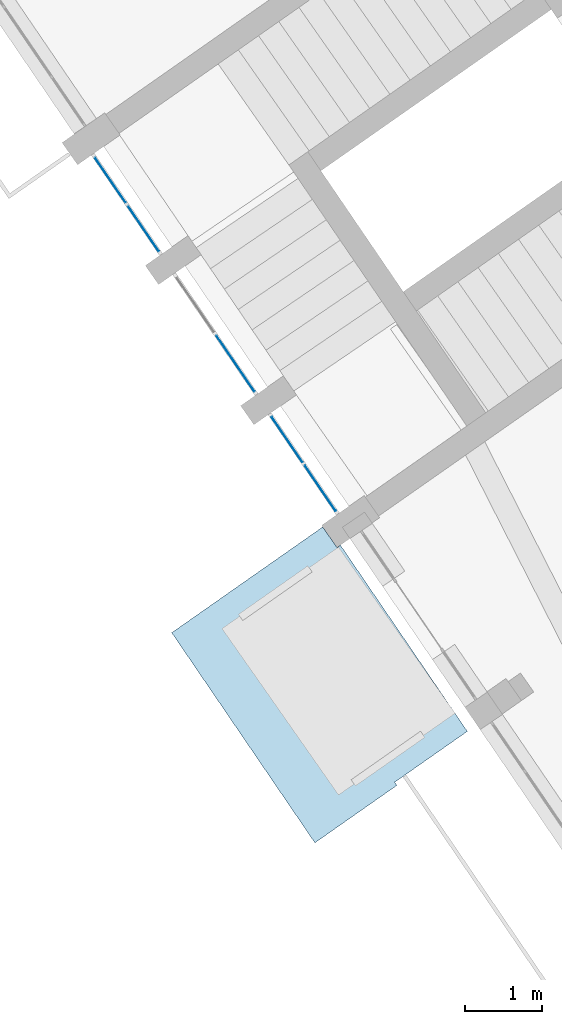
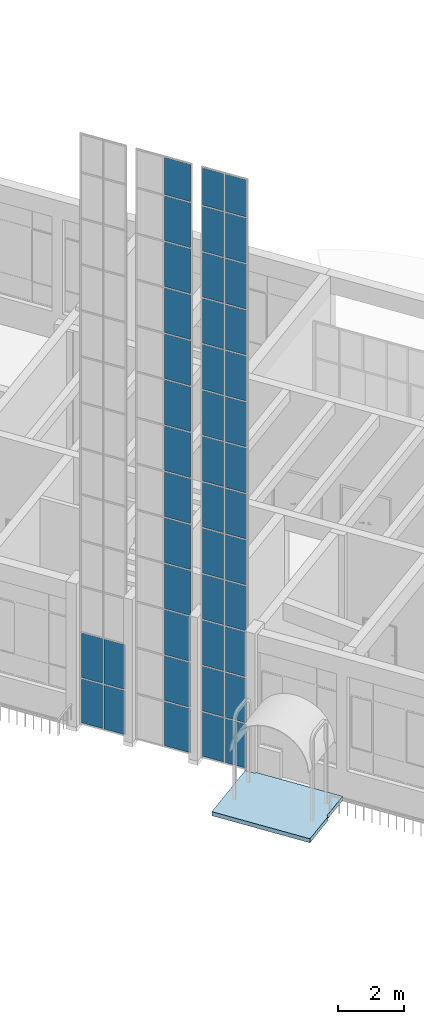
# One storey, part 43 of 157: 43 plates, 1 slab, 3 elements without a shape of their own.
"""IFC2X3 building model written with IfcOpenShell, lengths in millimetres."""

from ifc_helpers import new_model, entity, si_unit, converted_unit, derived_unit, direction, frame, frame_2d, origin, place, context, subcontext, project, spatial, polyline, rectangle, outline, extrude, source, transform, mapped, material, layer, layer_set, layer_usage, type_object, type_shapes, element, aggregate, save


model = new_model("IFC2X3")

# Units and contexts
model_context = context("Model", 3, precision=0.01, world=origin(), true_north=direction((6.123031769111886e-17, 1.0)))
body_context = subcontext(model_context, "Body", "Model", "MODEL_VIEW")
ifc_project = project(units=[si_unit("LENGTHUNIT", "METRE", prefix="MILLI"), si_unit("AREAUNIT", "SQUARE_METRE"), si_unit("VOLUMEUNIT", "CUBIC_METRE"), converted_unit("PLANEANGLEUNIT", "DEGREE", entity("IfcRatioMeasure", 0.017453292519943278), si_unit("PLANEANGLEUNIT", "RADIAN"), dimensions=[0, 0, 0, 0, 0, 0, 0]), si_unit("MASSUNIT", "GRAM", prefix="KILO"), derived_unit("MASSDENSITYUNIT", [(si_unit("MASSUNIT", "GRAM", prefix="KILO"), 1), (si_unit("LENGTHUNIT", "METRE"), -3)]), derived_unit("MOMENTOFINERTIAUNIT", [(si_unit("LENGTHUNIT", "METRE"), 4)]), si_unit("TIMEUNIT", "SECOND"), si_unit("FREQUENCYUNIT", "HERTZ"), si_unit("THERMODYNAMICTEMPERATUREUNIT", "DEGREE_CELSIUS"), derived_unit("THERMALTRANSMITTANCEUNIT", [(si_unit("MASSUNIT", "GRAM", prefix="KILO"), 1), (si_unit("THERMODYNAMICTEMPERATUREUNIT", "KELVIN"), -1), (si_unit("TIMEUNIT", "SECOND"), -3)]), derived_unit("THERMALCONDUCTANCEUNIT", [(si_unit("MASSUNIT", "GRAM", prefix="KILO"), 1), (si_unit("LENGTHUNIT", "METRE"), 1), (si_unit("THERMODYNAMICTEMPERATUREUNIT", "KELVIN"), -1), (si_unit("TIMEUNIT", "SECOND"), -3)]), derived_unit("VOLUMETRICFLOWRATEUNIT", [(si_unit("LENGTHUNIT", "METRE"), 3), (si_unit("TIMEUNIT", "SECOND"), -1)]), derived_unit("MASSFLOWRATEUNIT", [(si_unit("MASSUNIT", "GRAM", prefix="KILO"), 1), (si_unit("TIMEUNIT", "SECOND"), -1)]), derived_unit("ROTATIONALFREQUENCYUNIT", [(si_unit("TIMEUNIT", "SECOND"), -1)]), si_unit("ELECTRICCURRENTUNIT", "AMPERE"), si_unit("ELECTRICVOLTAGEUNIT", "VOLT"), si_unit("POWERUNIT", "WATT"), converted_unit("FORCEUNIT", "KIP", entity("IfcRatioMeasure", 2.088543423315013e-05), si_unit("FORCEUNIT", "NEWTON"), dimensions=[1, 1, -2, 0, 0, 0, 0]), si_unit("ILLUMINANCEUNIT", "LUX"), si_unit("LUMINOUSFLUXUNIT", "LUMEN"), si_unit("LUMINOUSINTENSITYUNIT", "CANDELA"), derived_unit("USERDEFINED", [(si_unit("MASSUNIT", "GRAM", prefix="KILO"), -1), (si_unit("LENGTHUNIT", "METRE"), -2), (si_unit("TIMEUNIT", "SECOND"), 3), (si_unit("LUMINOUSFLUXUNIT", "LUMEN"), 1)]), derived_unit("USERDEFINED", [(si_unit("MASSUNIT", "GRAM", prefix="KILO"), 1), (si_unit("LENGTHUNIT", "METRE"), 3), (si_unit("TIMEUNIT", "SECOND"), -3), (si_unit("ELECTRICCURRENTUNIT", "AMPERE"), -2)]), derived_unit("USERDEFINED", [(si_unit("LENGTHUNIT", "METRE"), 2), (si_unit("TIMEUNIT", "SECOND"), -2)]), derived_unit("SOUNDPOWERUNIT", [(si_unit("MASSUNIT", "GRAM", prefix="KILO"), 1), (si_unit("LENGTHUNIT", "METRE"), 2), (si_unit("TIMEUNIT", "SECOND"), -3)]), derived_unit("SOUNDPRESSUREUNIT", [(si_unit("MASSUNIT", "GRAM", prefix="KILO"), 1), (si_unit("LENGTHUNIT", "METRE"), -1), (si_unit("TIMEUNIT", "SECOND"), -2)]), derived_unit("LINEARVELOCITYUNIT", [(si_unit("LENGTHUNIT", "METRE"), 1), (si_unit("TIMEUNIT", "SECOND"), -1)]), si_unit("PRESSUREUNIT", "PASCAL"), derived_unit("USERDEFINED", [(si_unit("LENGTHUNIT", "METRE"), -2), (si_unit("MASSUNIT", "GRAM", prefix="KILO"), 1), (si_unit("TIMEUNIT", "SECOND"), -2)]), derived_unit("LINEARFORCEUNIT", [(si_unit("MASSUNIT", "GRAM", prefix="KILO"), 1), (si_unit("LENGTHUNIT", "METRE"), 1), (si_unit("TIMEUNIT", "SECOND"), -2), (si_unit("LENGTHUNIT", "METRE"), -1)]), derived_unit("PLANARFORCEUNIT", [(si_unit("MASSUNIT", "GRAM", prefix="KILO"), 1), (si_unit("LENGTHUNIT", "METRE"), 1), (si_unit("TIMEUNIT", "SECOND"), -2), (si_unit("LENGTHUNIT", "METRE"), -2)]), derived_unit("SPECIFICHEATCAPACITYUNIT", [(si_unit("LENGTHUNIT", "METRE"), 2), (si_unit("TIMEUNIT", "SECOND"), -2), (si_unit("THERMODYNAMICTEMPERATUREUNIT", "KELVIN"), -1)]), derived_unit("VAPORPERMEABILITYUNIT", [(si_unit("TIMEUNIT", "SECOND"), 1), (si_unit("LENGTHUNIT", "METRE"), -1)]), derived_unit("DYNAMICVISCOSITYUNIT", [(si_unit("MASSUNIT", "GRAM", prefix="KILO"), 1), (si_unit("LENGTHUNIT", "METRE"), -1), (si_unit("TIMEUNIT", "SECOND"), -1)]), derived_unit("THERMALEXPANSIONCOEFFICIENTUNIT", [(si_unit("THERMODYNAMICTEMPERATUREUNIT", "KELVIN"), -1)])], contexts=[model_context])

# Site, building, storey
site_placement = place(None, frame((0.0, 0.0, 0.0), z_axis=(0.0, 0.0, 1.0), x_axis=(0.8191520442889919, 0.5735764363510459, 0.0)))
site = spatial("IfcSite", under=ifc_project, at=site_placement, Name="Default", CompositionType="ELEMENT")
building_placement = place(site_placement, origin())
building = spatial("IfcBuilding", under=site, at=building_placement, CompositionType="ELEMENT")
storey_placement = place(building_placement, origin())
storey = spatial("IfcBuildingStorey", under=building, at=storey_placement, Name="1.EG +0.00", CompositionType="ELEMENT", Elevation=-4.331468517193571e-12)

# Slab
ifc_material_1 = material(Name="Analytical Floor Surface_CJC")
ifc_layer = layer(ifc_material_1, 150.0)
ifc_layer_set = layer_set([ifc_layer], Name="Floor:Boden_CJC")
ifc_layer_usage = layer_usage(ifc_layer_set, "AXIS3", "POSITIVE", 0.0)
slab_type = type_object("IfcSlabType", Name="Floor:Boden_CJC", PredefinedType="FLOOR", material=ifc_layer_set)
slab_placement = place(storey_placement, origin())
element("IfcSlab", 1, at=slab_placement, inside=storey, type_object=slab_type, material=ifc_layer_usage, Name="Floor:Boden_CJC", ObjectType="Floor:Boden_CJC", PredefinedType="FLOOR", context=body_context, shape_type="SweptSolid", body=[
    extrude(outline(polyline([(256.15321058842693, -1581.2499999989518), (1556.258550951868, -1581.2499999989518), (1514.2475077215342, 1718.7499999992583), (-878.2112033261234, 1718.749999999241), (-878.2112033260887, 1393.7499999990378), (-931.8135671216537, 1393.749999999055), (-894.5765060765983, -1531.2499999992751), (256.15321058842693, -1531.2499999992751), (256.15321058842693, -1581.2499999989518)])), frame((-224258.725467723, 108127.60891435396, 150.0), z_axis=(0.0, 0.0, -1.0), x_axis=(-1.0, 0.0, 0.0)), (0.0, 0.0, 1.0), 150.0),
])

# Curtain wall, plates
curtain_wall_type_1 = type_object("IfcCurtainWallType", Name="Curtain Wall:Curtain_Wall_CJC", PredefinedType="NOTDEFINED")
curtain_wall_1_placement = place(storey_placement, origin())
curtain_wall_1 = element("IfcCurtainWall", 2, at=curtain_wall_1_placement, inside=storey, type_object=curtain_wall_type_1, Name="Curtain Wall:Curtain_Wall_CJC", ObjectType="Curtain Wall:Curtain_Wall_CJC")
ifc_material_2 = material(Name="Glass")
plate_type_1 = type_object("IfcPlateType", Name="System Panel:Glazed_CJC", PredefinedType="CURTAIN_PANEL", material=ifc_material_2)
shared_shape_1 = source(origin(), body_context, "Body", "SweptSolid", [
    extrude(rectangle(XDim=10.0, YDim=712.0002822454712, at=frame_2d((0.0, -2.2453150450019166e-12), x_axis=(1.0, 0.0))), frame((0.0, 0.0, 0.0), z_axis=(0.0, 0.0, 1.0), x_axis=(0.0, 1.0, 0.0)), (0.0, 0.0, 1.0), 1624.9999999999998),
])
type_shapes(plate_type_1, [shared_shape_1])
plate_1_placement = place(curtain_wall_1_placement, frame((-223117.27986607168, 110277.32615952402, 50.0), z_axis=(0.0, 0.0, 1.0), x_axis=(0.01272958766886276, 0.999918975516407, 0.0)))
plate_1 = element("IfcPlate", 3, at=plate_1_placement, type_object=plate_type_1, material=ifc_material_2, Name="System Panel:Glazed_CJC", ObjectType="System Panel:Glazed_CJC", context=body_context, shape_type="MappedRepresentation", body=[
    mapped(shared_shape_1, transform((0.0, 0.0, 0.0), scale=1.0)),
])
plate_2_placement = place(curtain_wall_1_placement, frame((-223107.5799166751, 111039.26470109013, 50.0), z_axis=(0.0, 0.0, 1.0), x_axis=(0.01272958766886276, 0.999918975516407, 0.0)))
plate_2 = element("IfcPlate", 4, at=plate_2_placement, type_object=plate_type_1, material=ifc_material_2, Name="System Panel:Glazed_CJC", ObjectType="System Panel:Glazed_CJC", context=body_context, shape_type="MappedRepresentation", body=[
    mapped(shared_shape_1, transform((0.0, 0.0, 0.0), scale=1.0)),
])
plate_type_2 = type_object("IfcPlateType", Name="System Panel:Glazed_CJC", PredefinedType="CURTAIN_PANEL", material=ifc_material_2)
shared_shape_2 = source(origin(), body_context, "Body", "SweptSolid", [
    extrude(rectangle(XDim=10.0, YDim=712.0002822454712, at=frame_2d((0.0, -2.2453150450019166e-12), x_axis=(1.0, 0.0))), frame((0.0, 0.0, 0.0), z_axis=(0.0, 0.0, 1.0), x_axis=(0.0, 1.0, 0.0)), (0.0, 0.0, 1.0), 1650.0000000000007),
])
type_shapes(plate_type_2, [shared_shape_2])
plate_3_placement = place(curtain_wall_1_placement, frame((-223117.27986607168, 110277.32615952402, 1725.0), z_axis=(0.0, 0.0, 1.0), x_axis=(0.01272958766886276, 0.999918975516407, 0.0)))
plate_3 = element("IfcPlate", 5, at=plate_3_placement, type_object=plate_type_2, material=ifc_material_2, Name="System Panel:Glazed_CJC", ObjectType="System Panel:Glazed_CJC", context=body_context, shape_type="MappedRepresentation", body=[
    mapped(shared_shape_2, transform((0.0, 0.0, 0.0), scale=1.0)),
])
plate_4_placement = place(curtain_wall_1_placement, frame((-223107.5799166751, 111039.26470109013, 1725.0), z_axis=(0.0, 0.0, 1.0), x_axis=(0.01272958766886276, 0.999918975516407, 0.0)))
plate_4 = element("IfcPlate", 6, at=plate_4_placement, type_object=plate_type_2, material=ifc_material_2, Name="System Panel:Glazed_CJC", ObjectType="System Panel:Glazed_CJC", context=body_context, shape_type="MappedRepresentation", body=[
    mapped(shared_shape_2, transform((0.0, 0.0, 0.0), scale=1.0)),
])
plate_5_placement = place(curtain_wall_1_placement, frame((-223117.27986607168, 110277.32615952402, 3425.0), z_axis=(0.0, 0.0, 1.0), x_axis=(0.01272958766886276, 0.999918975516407, 0.0)))
plate_5 = element("IfcPlate", 7, at=plate_5_placement, type_object=plate_type_2, material=ifc_material_2, Name="System Panel:Glazed_CJC", ObjectType="System Panel:Glazed_CJC", context=body_context, shape_type="MappedRepresentation", body=[
    mapped(shared_shape_2, transform((0.0, 0.0, 0.0), scale=1.0)),
])
plate_6_placement = place(curtain_wall_1_placement, frame((-223107.5799166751, 111039.26470109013, 3425.0), z_axis=(0.0, 0.0, 1.0), x_axis=(0.01272958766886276, 0.999918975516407, 0.0)))
plate_6 = element("IfcPlate", 8, at=plate_6_placement, type_object=plate_type_2, material=ifc_material_2, Name="System Panel:Glazed_CJC", ObjectType="System Panel:Glazed_CJC", context=body_context, shape_type="MappedRepresentation", body=[
    mapped(shared_shape_2, transform((0.0, 0.0, 0.0), scale=1.0)),
])
plate_7_placement = place(curtain_wall_1_placement, frame((-223117.27986607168, 110277.32615952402, 5125.0), z_axis=(0.0, 0.0, 1.0), x_axis=(0.01272958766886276, 0.999918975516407, 0.0)))
plate_7 = element("IfcPlate", 9, at=plate_7_placement, type_object=plate_type_2, material=ifc_material_2, Name="System Panel:Glazed_CJC", ObjectType="System Panel:Glazed_CJC", context=body_context, shape_type="MappedRepresentation", body=[
    mapped(shared_shape_2, transform((0.0, 0.0, 0.0), scale=1.0)),
])
plate_8_placement = place(curtain_wall_1_placement, frame((-223107.5799166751, 111039.26470109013, 5125.0), z_axis=(0.0, 0.0, 1.0), x_axis=(0.01272958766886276, 0.999918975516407, 0.0)))
plate_8 = element("IfcPlate", 10, at=plate_8_placement, type_object=plate_type_2, material=ifc_material_2, Name="System Panel:Glazed_CJC", ObjectType="System Panel:Glazed_CJC", context=body_context, shape_type="MappedRepresentation", body=[
    mapped(shared_shape_2, transform((0.0, 0.0, 0.0), scale=1.0)),
])
plate_9_placement = place(curtain_wall_1_placement, frame((-223117.27986607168, 110277.32615952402, 6825.0), z_axis=(0.0, 0.0, 1.0), x_axis=(0.01272958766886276, 0.999918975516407, 0.0)))
plate_9 = element("IfcPlate", 11, at=plate_9_placement, type_object=plate_type_2, material=ifc_material_2, Name="System Panel:Glazed_CJC", ObjectType="System Panel:Glazed_CJC", context=body_context, shape_type="MappedRepresentation", body=[
    mapped(shared_shape_2, transform((0.0, 0.0, 0.0), scale=1.0)),
])
plate_10_placement = place(curtain_wall_1_placement, frame((-223107.5799166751, 111039.26470109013, 6825.0), z_axis=(0.0, 0.0, 1.0), x_axis=(0.01272958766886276, 0.999918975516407, 0.0)))
plate_10 = element("IfcPlate", 12, at=plate_10_placement, type_object=plate_type_2, material=ifc_material_2, Name="System Panel:Glazed_CJC", ObjectType="System Panel:Glazed_CJC", context=body_context, shape_type="MappedRepresentation", body=[
    mapped(shared_shape_2, transform((0.0, 0.0, 0.0), scale=1.0)),
])
plate_11_placement = place(curtain_wall_1_placement, frame((-223117.27986607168, 110277.32615952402, 8525.0), z_axis=(0.0, 0.0, 1.0), x_axis=(0.01272958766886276, 0.999918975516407, 0.0)))
plate_11 = element("IfcPlate", 13, at=plate_11_placement, type_object=plate_type_2, material=ifc_material_2, Name="System Panel:Glazed_CJC", ObjectType="System Panel:Glazed_CJC", context=body_context, shape_type="MappedRepresentation", body=[
    mapped(shared_shape_2, transform((0.0, 0.0, 0.0), scale=1.0)),
])
plate_12_placement = place(curtain_wall_1_placement, frame((-223107.5799166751, 111039.26470109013, 8525.0), z_axis=(0.0, 0.0, 1.0), x_axis=(0.01272958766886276, 0.999918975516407, 0.0)))
plate_12 = element("IfcPlate", 14, at=plate_12_placement, type_object=plate_type_2, material=ifc_material_2, Name="System Panel:Glazed_CJC", ObjectType="System Panel:Glazed_CJC", context=body_context, shape_type="MappedRepresentation", body=[
    mapped(shared_shape_2, transform((0.0, 0.0, 0.0), scale=1.0)),
])
plate_13_placement = place(curtain_wall_1_placement, frame((-223117.27986607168, 110277.32615952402, 10225.0), z_axis=(0.0, 0.0, 1.0), x_axis=(0.01272958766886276, 0.999918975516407, 0.0)))
plate_13 = element("IfcPlate", 15, at=plate_13_placement, type_object=plate_type_2, material=ifc_material_2, Name="System Panel:Glazed_CJC", ObjectType="System Panel:Glazed_CJC", context=body_context, shape_type="MappedRepresentation", body=[
    mapped(shared_shape_2, transform((0.0, 0.0, 0.0), scale=1.0)),
])
plate_14_placement = place(curtain_wall_1_placement, frame((-223107.5799166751, 111039.26470109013, 10225.0), z_axis=(0.0, 0.0, 1.0), x_axis=(0.01272958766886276, 0.999918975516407, 0.0)))
plate_14 = element("IfcPlate", 16, at=plate_14_placement, type_object=plate_type_2, material=ifc_material_2, Name="System Panel:Glazed_CJC", ObjectType="System Panel:Glazed_CJC", context=body_context, shape_type="MappedRepresentation", body=[
    mapped(shared_shape_2, transform((0.0, 0.0, 0.0), scale=1.0)),
])
plate_15_placement = place(curtain_wall_1_placement, frame((-223117.27986607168, 110277.32615952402, 11925.0), z_axis=(0.0, 0.0, 1.0), x_axis=(0.01272958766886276, 0.999918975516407, 0.0)))
plate_15 = element("IfcPlate", 17, at=plate_15_placement, type_object=plate_type_2, material=ifc_material_2, Name="System Panel:Glazed_CJC", ObjectType="System Panel:Glazed_CJC", context=body_context, shape_type="MappedRepresentation", body=[
    mapped(shared_shape_2, transform((0.0, 0.0, 0.0), scale=1.0)),
])
plate_16_placement = place(curtain_wall_1_placement, frame((-223107.5799166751, 111039.26470109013, 11925.0), z_axis=(0.0, 0.0, 1.0), x_axis=(0.01272958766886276, 0.999918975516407, 0.0)))
plate_16 = element("IfcPlate", 18, at=plate_16_placement, type_object=plate_type_2, material=ifc_material_2, Name="System Panel:Glazed_CJC", ObjectType="System Panel:Glazed_CJC", context=body_context, shape_type="MappedRepresentation", body=[
    mapped(shared_shape_2, transform((0.0, 0.0, 0.0), scale=1.0)),
])
plate_17_placement = place(curtain_wall_1_placement, frame((-223117.27986607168, 110277.32615952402, 13625.0), z_axis=(0.0, 0.0, 1.0), x_axis=(0.01272958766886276, 0.999918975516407, 0.0)))
plate_17 = element("IfcPlate", 19, at=plate_17_placement, type_object=plate_type_2, material=ifc_material_2, Name="System Panel:Glazed_CJC", ObjectType="System Panel:Glazed_CJC", context=body_context, shape_type="MappedRepresentation", body=[
    mapped(shared_shape_2, transform((0.0, 0.0, 0.0), scale=1.0)),
])
plate_18_placement = place(curtain_wall_1_placement, frame((-223107.5799166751, 111039.26470109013, 13625.0), z_axis=(0.0, 0.0, 1.0), x_axis=(0.01272958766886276, 0.999918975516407, 0.0)))
plate_18 = element("IfcPlate", 20, at=plate_18_placement, type_object=plate_type_2, material=ifc_material_2, Name="System Panel:Glazed_CJC", ObjectType="System Panel:Glazed_CJC", context=body_context, shape_type="MappedRepresentation", body=[
    mapped(shared_shape_2, transform((0.0, 0.0, 0.0), scale=1.0)),
])
plate_19_placement = place(curtain_wall_1_placement, frame((-223117.27986607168, 110277.32615952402, 15325.0), z_axis=(0.0, 0.0, 1.0), x_axis=(0.01272958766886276, 0.999918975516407, 0.0)))
plate_19 = element("IfcPlate", 21, at=plate_19_placement, type_object=plate_type_2, material=ifc_material_2, Name="System Panel:Glazed_CJC", ObjectType="System Panel:Glazed_CJC", context=body_context, shape_type="MappedRepresentation", body=[
    mapped(shared_shape_2, transform((0.0, 0.0, 0.0), scale=1.0)),
])
plate_20_placement = place(curtain_wall_1_placement, frame((-223107.5799166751, 111039.26470109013, 15325.0), z_axis=(0.0, 0.0, 1.0), x_axis=(0.01272958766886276, 0.999918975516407, 0.0)))
plate_20 = element("IfcPlate", 22, at=plate_20_placement, type_object=plate_type_2, material=ifc_material_2, Name="System Panel:Glazed_CJC", ObjectType="System Panel:Glazed_CJC", context=body_context, shape_type="MappedRepresentation", body=[
    mapped(shared_shape_2, transform((0.0, 0.0, 0.0), scale=1.0)),
])
plate_21_placement = place(curtain_wall_1_placement, frame((-223117.27986607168, 110277.32615952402, 17025.0), z_axis=(0.0, 0.0, 1.0), x_axis=(0.01272958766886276, 0.999918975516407, 0.0)))
plate_21 = element("IfcPlate", 23, at=plate_21_placement, type_object=plate_type_2, material=ifc_material_2, Name="System Panel:Glazed_CJC", ObjectType="System Panel:Glazed_CJC", context=body_context, shape_type="MappedRepresentation", body=[
    mapped(shared_shape_2, transform((0.0, 0.0, 0.0), scale=1.0)),
])
plate_22_placement = place(curtain_wall_1_placement, frame((-223107.5799166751, 111039.26470109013, 17025.0), z_axis=(0.0, 0.0, 1.0), x_axis=(0.01272958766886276, 0.999918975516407, 0.0)))
plate_22 = element("IfcPlate", 24, at=plate_22_placement, type_object=plate_type_2, material=ifc_material_2, Name="System Panel:Glazed_CJC", ObjectType="System Panel:Glazed_CJC", context=body_context, shape_type="MappedRepresentation", body=[
    mapped(shared_shape_2, transform((0.0, 0.0, 0.0), scale=1.0)),
])
plate_23_placement = place(curtain_wall_1_placement, frame((-223117.27986607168, 110277.32615952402, 18725.0), z_axis=(0.0, 0.0, 1.0), x_axis=(0.01272958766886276, 0.999918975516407, 0.0)))
plate_23 = element("IfcPlate", 25, at=plate_23_placement, type_object=plate_type_2, material=ifc_material_2, Name="System Panel:Glazed_CJC", ObjectType="System Panel:Glazed_CJC", context=body_context, shape_type="MappedRepresentation", body=[
    mapped(shared_shape_2, transform((0.0, 0.0, 0.0), scale=1.0)),
])
plate_24_placement = place(curtain_wall_1_placement, frame((-223107.5799166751, 111039.26470109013, 18725.0), z_axis=(0.0, 0.0, 1.0), x_axis=(0.01272958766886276, 0.999918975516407, 0.0)))
plate_24 = element("IfcPlate", 26, at=plate_24_placement, type_object=plate_type_2, material=ifc_material_2, Name="System Panel:Glazed_CJC", ObjectType="System Panel:Glazed_CJC", context=body_context, shape_type="MappedRepresentation", body=[
    mapped(shared_shape_2, transform((0.0, 0.0, 0.0), scale=1.0)),
])
plate_type_3 = type_object("IfcPlateType", Name="System Panel:Glazed_CJC", PredefinedType="CURTAIN_PANEL", material=ifc_material_2)
shared_shape_3 = source(origin(), body_context, "Body", "SweptSolid", [
    extrude(rectangle(XDim=10.0, YDim=712.0002822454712, at=frame_2d((0.0, -2.2453150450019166e-12), x_axis=(1.0, 0.0))), frame((0.0, 0.0, 0.0), z_axis=(0.0, 0.0, 1.0), x_axis=(0.0, 1.0, 0.0)), (0.0, 0.0, 1.0), 1375.0000000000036),
])
type_shapes(plate_type_3, [shared_shape_3])
plate_25_placement = place(curtain_wall_1_placement, frame((-223117.27986607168, 110277.32615952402, 20425.0), z_axis=(0.0, 0.0, 1.0), x_axis=(0.01272958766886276, 0.999918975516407, 0.0)))
plate_25 = element("IfcPlate", 27, at=plate_25_placement, type_object=plate_type_3, material=ifc_material_2, Name="System Panel:Glazed_CJC", ObjectType="System Panel:Glazed_CJC", context=body_context, shape_type="MappedRepresentation", body=[
    mapped(shared_shape_3, transform((0.0, 0.0, 0.0), scale=1.0)),
])
plate_26_placement = place(curtain_wall_1_placement, frame((-223107.5799166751, 111039.26470109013, 20425.0), z_axis=(0.0, 0.0, 1.0), x_axis=(0.01272958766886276, 0.999918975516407, 0.0)))
plate_26 = element("IfcPlate", 28, at=plate_26_placement, type_object=plate_type_3, material=ifc_material_2, Name="System Panel:Glazed_CJC", ObjectType="System Panel:Glazed_CJC", context=body_context, shape_type="MappedRepresentation", body=[
    mapped(shared_shape_3, transform((0.0, 0.0, 0.0), scale=1.0)),
])
aggregate(curtain_wall_1, [plate_1, plate_2, plate_3, plate_4, plate_5, plate_6, plate_7, plate_8, plate_9, plate_10, plate_11, plate_12, plate_13, plate_14, plate_15, plate_16, plate_17, plate_18, plate_19, plate_20, plate_21, plate_22, plate_23, plate_24, plate_25, plate_26])

curtain_wall_type_2 = type_object("IfcCurtainWallType", Name="Curtain Wall:Curtain_Wall_CJC 2", PredefinedType="NOTDEFINED")
curtain_wall_2_placement = place(storey_placement, origin())
curtain_wall_2 = element("IfcCurtainWall", 29, at=curtain_wall_2_placement, inside=storey, type_object=curtain_wall_type_2, Name="Curtain Wall:Curtain_Wall_CJC 2", ObjectType="Curtain Wall:Curtain_Wall_CJC 2")
plate_type_4 = type_object("IfcPlateType", Name="System Panel:Glazed_CJC", PredefinedType="CURTAIN_PANEL", material=ifc_material_2)
shared_shape_4 = source(origin(), body_context, "Body", "SweptSolid", [
    extrude(rectangle(XDim=10.0, YDim=875.0769794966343, at=frame_2d((0.0, -2.2168933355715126e-12), x_axis=(1.0, 0.0))), frame((0.0, 0.0, 0.0), z_axis=(0.0, 0.0, 1.0), x_axis=(0.0, 1.0, 0.0)), (0.0, 0.0, 1.0), 1624.9999999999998),
])
type_shapes(plate_type_4, [shared_shape_4])
plate_27_placement = place(curtain_wall_2_placement, frame((-223092.3863525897, 112232.730933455, 50.0), z_axis=(0.0, 0.0, 1.0), x_axis=(0.01272958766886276, 0.999918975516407, 0.0)))
plate_27 = element("IfcPlate", 30, at=plate_27_placement, type_object=plate_type_4, material=ifc_material_2, Name="System Panel:Glazed_CJC", ObjectType="System Panel:Glazed_CJC", context=body_context, shape_type="MappedRepresentation", body=[
    mapped(shared_shape_4, transform((0.0, 0.0, 0.0), scale=1.0)),
])
plate_type_5 = type_object("IfcPlateType", Name="System Panel:Glazed_CJC", PredefinedType="CURTAIN_PANEL", material=ifc_material_2)
shared_shape_5 = source(origin(), body_context, "Body", "SweptSolid", [
    extrude(rectangle(XDim=10.0, YDim=875.0769794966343, at=frame_2d((0.0, -2.2168933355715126e-12), x_axis=(1.0, 0.0))), frame((0.0, 0.0, 0.0), z_axis=(0.0, 0.0, 1.0), x_axis=(0.0, 1.0, 0.0)), (0.0, 0.0, 1.0), 1650.0000000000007),
])
type_shapes(plate_type_5, [shared_shape_5])
plate_28_placement = place(curtain_wall_2_placement, frame((-223092.3863525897, 112232.730933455, 1725.0), z_axis=(0.0, 0.0, 1.0), x_axis=(0.01272958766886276, 0.999918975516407, 0.0)))
plate_28 = element("IfcPlate", 31, at=plate_28_placement, type_object=plate_type_5, material=ifc_material_2, Name="System Panel:Glazed_CJC", ObjectType="System Panel:Glazed_CJC", context=body_context, shape_type="MappedRepresentation", body=[
    mapped(shared_shape_5, transform((0.0, 0.0, 0.0), scale=1.0)),
])
plate_29_placement = place(curtain_wall_2_placement, frame((-223092.3863525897, 112232.730933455, 3425.0), z_axis=(0.0, 0.0, 1.0), x_axis=(0.01272958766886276, 0.999918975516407, 0.0)))
plate_29 = element("IfcPlate", 32, at=plate_29_placement, type_object=plate_type_5, material=ifc_material_2, Name="System Panel:Glazed_CJC", ObjectType="System Panel:Glazed_CJC", context=body_context, shape_type="MappedRepresentation", body=[
    mapped(shared_shape_5, transform((0.0, 0.0, 0.0), scale=1.0)),
])
plate_30_placement = place(curtain_wall_2_placement, frame((-223092.3863525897, 112232.730933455, 5125.0), z_axis=(0.0, 0.0, 1.0), x_axis=(0.01272958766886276, 0.999918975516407, 0.0)))
plate_30 = element("IfcPlate", 33, at=plate_30_placement, type_object=plate_type_5, material=ifc_material_2, Name="System Panel:Glazed_CJC", ObjectType="System Panel:Glazed_CJC", context=body_context, shape_type="MappedRepresentation", body=[
    mapped(shared_shape_5, transform((0.0, 0.0, 0.0), scale=1.0)),
])
plate_31_placement = place(curtain_wall_2_placement, frame((-223092.3863525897, 112232.730933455, 6825.0), z_axis=(0.0, 0.0, 1.0), x_axis=(0.01272958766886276, 0.999918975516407, 0.0)))
plate_31 = element("IfcPlate", 34, at=plate_31_placement, type_object=plate_type_5, material=ifc_material_2, Name="System Panel:Glazed_CJC", ObjectType="System Panel:Glazed_CJC", context=body_context, shape_type="MappedRepresentation", body=[
    mapped(shared_shape_5, transform((0.0, 0.0, 0.0), scale=1.0)),
])
plate_32_placement = place(curtain_wall_2_placement, frame((-223092.3863525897, 112232.730933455, 8525.0), z_axis=(0.0, 0.0, 1.0), x_axis=(0.01272958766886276, 0.999918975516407, 0.0)))
plate_32 = element("IfcPlate", 35, at=plate_32_placement, type_object=plate_type_5, material=ifc_material_2, Name="System Panel:Glazed_CJC", ObjectType="System Panel:Glazed_CJC", context=body_context, shape_type="MappedRepresentation", body=[
    mapped(shared_shape_5, transform((0.0, 0.0, 0.0), scale=1.0)),
])
plate_33_placement = place(curtain_wall_2_placement, frame((-223092.3863525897, 112232.730933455, 10225.0), z_axis=(0.0, 0.0, 1.0), x_axis=(0.01272958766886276, 0.999918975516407, 0.0)))
plate_33 = element("IfcPlate", 36, at=plate_33_placement, type_object=plate_type_5, material=ifc_material_2, Name="System Panel:Glazed_CJC", ObjectType="System Panel:Glazed_CJC", context=body_context, shape_type="MappedRepresentation", body=[
    mapped(shared_shape_5, transform((0.0, 0.0, 0.0), scale=1.0)),
])
plate_34_placement = place(curtain_wall_2_placement, frame((-223092.3863525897, 112232.730933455, 11925.0), z_axis=(0.0, 0.0, 1.0), x_axis=(0.01272958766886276, 0.999918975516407, 0.0)))
plate_34 = element("IfcPlate", 37, at=plate_34_placement, type_object=plate_type_5, material=ifc_material_2, Name="System Panel:Glazed_CJC", ObjectType="System Panel:Glazed_CJC", context=body_context, shape_type="MappedRepresentation", body=[
    mapped(shared_shape_5, transform((0.0, 0.0, 0.0), scale=1.0)),
])
plate_35_placement = place(curtain_wall_2_placement, frame((-223092.3863525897, 112232.730933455, 13625.0), z_axis=(0.0, 0.0, 1.0), x_axis=(0.01272958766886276, 0.999918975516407, 0.0)))
plate_35 = element("IfcPlate", 38, at=plate_35_placement, type_object=plate_type_5, material=ifc_material_2, Name="System Panel:Glazed_CJC", ObjectType="System Panel:Glazed_CJC", context=body_context, shape_type="MappedRepresentation", body=[
    mapped(shared_shape_5, transform((0.0, 0.0, 0.0), scale=1.0)),
])
plate_36_placement = place(curtain_wall_2_placement, frame((-223092.3863525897, 112232.730933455, 15325.0), z_axis=(0.0, 0.0, 1.0), x_axis=(0.01272958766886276, 0.999918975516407, 0.0)))
plate_36 = element("IfcPlate", 39, at=plate_36_placement, type_object=plate_type_5, material=ifc_material_2, Name="System Panel:Glazed_CJC", ObjectType="System Panel:Glazed_CJC", context=body_context, shape_type="MappedRepresentation", body=[
    mapped(shared_shape_5, transform((0.0, 0.0, 0.0), scale=1.0)),
])
plate_37_placement = place(curtain_wall_2_placement, frame((-223092.3863525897, 112232.730933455, 17025.0), z_axis=(0.0, 0.0, 1.0), x_axis=(0.01272958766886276, 0.999918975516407, 0.0)))
plate_37 = element("IfcPlate", 40, at=plate_37_placement, type_object=plate_type_5, material=ifc_material_2, Name="System Panel:Glazed_CJC", ObjectType="System Panel:Glazed_CJC", context=body_context, shape_type="MappedRepresentation", body=[
    mapped(shared_shape_5, transform((0.0, 0.0, 0.0), scale=1.0)),
])
plate_38_placement = place(curtain_wall_2_placement, frame((-223092.3863525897, 112232.730933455, 18725.0), z_axis=(0.0, 0.0, 1.0), x_axis=(0.01272958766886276, 0.999918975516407, 0.0)))
plate_38 = element("IfcPlate", 41, at=plate_38_placement, type_object=plate_type_5, material=ifc_material_2, Name="System Panel:Glazed_CJC", ObjectType="System Panel:Glazed_CJC", context=body_context, shape_type="MappedRepresentation", body=[
    mapped(shared_shape_5, transform((0.0, 0.0, 0.0), scale=1.0)),
])
plate_type_6 = type_object("IfcPlateType", Name="System Panel:Glazed_CJC", PredefinedType="CURTAIN_PANEL", material=ifc_material_2)
shared_shape_6 = source(origin(), body_context, "Body", "SweptSolid", [
    extrude(rectangle(XDim=10.0, YDim=875.0769794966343, at=frame_2d((0.0, -2.2168933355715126e-12), x_axis=(1.0, 0.0))), frame((0.0, 0.0, 0.0), z_axis=(0.0, 0.0, 1.0), x_axis=(0.0, 1.0, 0.0)), (0.0, 0.0, 1.0), 1375.0000000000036),
])
type_shapes(plate_type_6, [shared_shape_6])
plate_39_placement = place(curtain_wall_2_placement, frame((-223092.3863525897, 112232.730933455, 20425.0), z_axis=(0.0, 0.0, 1.0), x_axis=(0.01272958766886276, 0.999918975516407, 0.0)))
plate_39 = element("IfcPlate", 42, at=plate_39_placement, type_object=plate_type_6, material=ifc_material_2, Name="System Panel:Glazed_CJC", ObjectType="System Panel:Glazed_CJC", context=body_context, shape_type="MappedRepresentation", body=[
    mapped(shared_shape_6, transform((0.0, 0.0, 0.0), scale=1.0)),
])
aggregate(curtain_wall_2, [plate_27, plate_28, plate_29, plate_30, plate_31, plate_32, plate_33, plate_34, plate_35, plate_36, plate_37, plate_38, plate_39])

curtain_wall_3_placement = place(storey_placement, origin())
curtain_wall_3 = element("IfcCurtainWall", 43, at=curtain_wall_3_placement, inside=storey, type_object=curtain_wall_type_1, Name="Curtain Wall:Curtain_Wall_CJC", ObjectType="Curtain Wall:Curtain_Wall_CJC")
plate_type_7 = type_object("IfcPlateType", Name="System Panel:Glazed_CJC", PredefinedType="CURTAIN_PANEL", material=ifc_material_2)
shared_shape_7 = source(origin(), body_context, "Body", "SweptSolid", [
    extrude(rectangle(XDim=10.0, YDim=713.1273416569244, at=frame_2d((0.0, 1.8474111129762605e-12), x_axis=(1.0, 0.0))), frame((0.0, 0.0, 0.0), z_axis=(0.0, 0.0, 1.0), x_axis=(0.0, 1.0, 0.0)), (0.0, 0.0, 1.0), 1624.9999999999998),
])
type_shapes(plate_type_7, [shared_shape_7])
plate_40_placement = place(curtain_wall_3_placement, frame((-223065.4097664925, 114351.76267547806, 50.0), z_axis=(0.0, 0.0, 1.0), x_axis=(0.01272958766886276, 0.999918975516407, 0.0)))
plate_40 = element("IfcPlate", 44, at=plate_40_placement, type_object=plate_type_7, material=ifc_material_2, Name="System Panel:Glazed_CJC", ObjectType="System Panel:Glazed_CJC", context=body_context, shape_type="MappedRepresentation", body=[
    mapped(shared_shape_7, transform((0.0, 0.0, 0.0), scale=1.0)),
])
plate_41_placement = place(curtain_wall_3_placement, frame((-223055.69547009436, 115114.82818513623, 50.0), z_axis=(0.0, 0.0, 1.0), x_axis=(0.01272958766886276, 0.999918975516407, 0.0)))
plate_41 = element("IfcPlate", 45, at=plate_41_placement, type_object=plate_type_7, material=ifc_material_2, Name="System Panel:Glazed_CJC", ObjectType="System Panel:Glazed_CJC", context=body_context, shape_type="MappedRepresentation", body=[
    mapped(shared_shape_7, transform((0.0, 0.0, 0.0), scale=1.0)),
])
plate_type_8 = type_object("IfcPlateType", Name="System Panel:Glazed_CJC", PredefinedType="CURTAIN_PANEL", material=ifc_material_2)
shared_shape_8 = source(origin(), body_context, "Body", "SweptSolid", [
    extrude(rectangle(XDim=10.0, YDim=713.1273416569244, at=frame_2d((0.0, 1.8474111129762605e-12), x_axis=(1.0, 0.0))), frame((0.0, 0.0, 0.0), z_axis=(0.0, 0.0, 1.0), x_axis=(0.0, 1.0, 0.0)), (0.0, 0.0, 1.0), 1650.0000000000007),
])
type_shapes(plate_type_8, [shared_shape_8])
plate_42_placement = place(curtain_wall_3_placement, frame((-223065.4097664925, 114351.76267547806, 1725.0), z_axis=(0.0, 0.0, 1.0), x_axis=(0.01272958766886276, 0.999918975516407, 0.0)))
plate_42 = element("IfcPlate", 46, at=plate_42_placement, type_object=plate_type_8, material=ifc_material_2, Name="System Panel:Glazed_CJC", ObjectType="System Panel:Glazed_CJC", context=body_context, shape_type="MappedRepresentation", body=[
    mapped(shared_shape_8, transform((0.0, 0.0, 0.0), scale=1.0)),
])
plate_43_placement = place(curtain_wall_3_placement, frame((-223055.69547009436, 115114.82818513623, 1725.0), z_axis=(0.0, 0.0, 1.0), x_axis=(0.01272958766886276, 0.999918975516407, 0.0)))
plate_43 = element("IfcPlate", 47, at=plate_43_placement, type_object=plate_type_8, material=ifc_material_2, Name="System Panel:Glazed_CJC", ObjectType="System Panel:Glazed_CJC", context=body_context, shape_type="MappedRepresentation", body=[
    mapped(shared_shape_8, transform((0.0, 0.0, 0.0), scale=1.0)),
])
aggregate(curtain_wall_3, [plate_40, plate_41, plate_42, plate_43])

save(model, "model.ifc")
